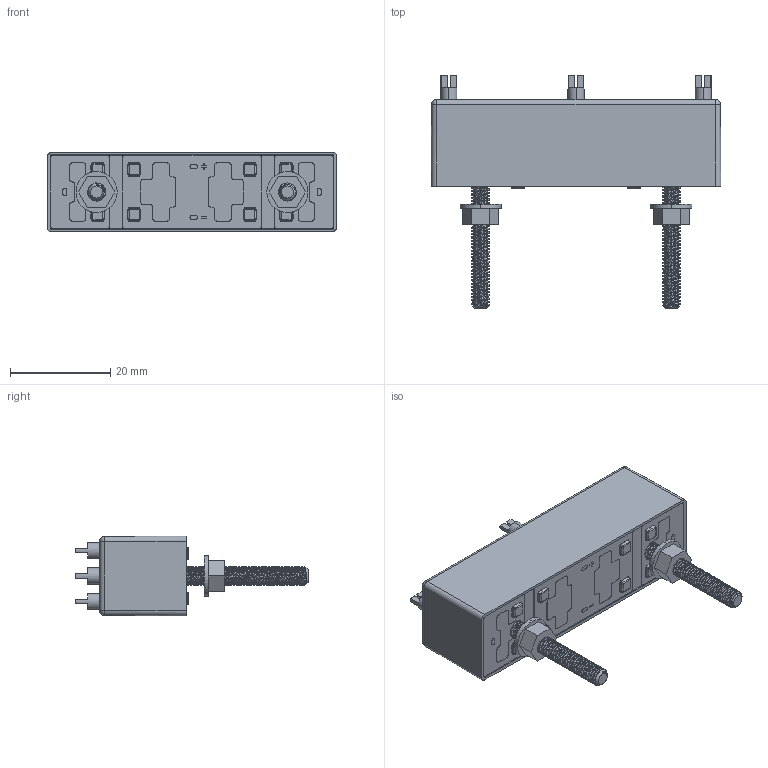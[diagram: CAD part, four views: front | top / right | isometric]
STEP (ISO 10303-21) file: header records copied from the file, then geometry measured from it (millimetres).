
FILE_DESCRIPTION (( 'STEP AP203' ), '1' );
FILE_NAME ('600 SERIES - 600 1A or B TL-1.STEP', '2025-06-30T15:29:08', ( '' ), ( '' ), 'SwSTEP 2.0', 'SolidWorks 2023', '' );
FILE_SCHEMA (( 'CONFIG_CONTROL_DESIGN' ));
Length unit declared in the file: millimetre
Products named in the file (1): 600 SERIES - 600 1A or B TL-1
Bounding box: 57.85 x 46.5 x 15.95 mm (x, y, z)
Volume: 2944 mm3; surface area: 9944.8 mm2
Topology: 42 solids, 42 shells, 1119 faces, 2918 edges, 1888 vertices
Faces by surface type: cylinder 522, plane 451, bspline 104, sphere 36, cone 6
Entity records: 50541 total; most frequent: CARTESIAN_POINT 24814, ORIENTED_EDGE 5836, DIRECTION 4932, EDGE_CURVE 2918, VERTEX_POINT 1888, AXIS2_PLACEMENT_3D 1708, VECTOR 1516, LINE 1516
